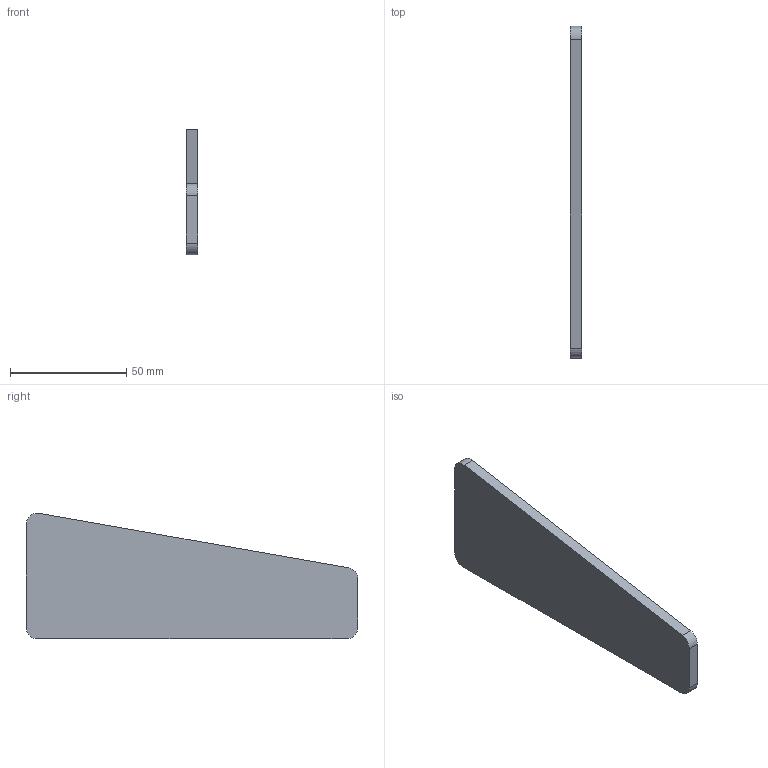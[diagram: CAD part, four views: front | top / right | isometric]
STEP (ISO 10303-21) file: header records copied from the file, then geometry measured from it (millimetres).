
FILE_DESCRIPTION(/* description */ (''),/* implementation_level */ '2;1');
FILE_NAME(/* name */ 'side_panel_v0.1.step',/* time_stamp */ '2026-08-26T16:36:14+01:00',/* author */ (''),/* organization */ (''),/* preprocessor_version */ 'ST-DEVELOPER v20.1',/* originating_system */ 'Autodesk Translation Framework v15.8.0.0',/* authorisation */ '');
FILE_SCHEMA (('AUTOMOTIVE_DESIGN { 1 0 10303 214 3 1 1 }'));
Length unit declared in the file: millimetre
Products named in the file (1): wood_right
Bounding box: 5 x 142.8 x 54.04 mm (x, y, z)
Volume: 30169.3 mm3; surface area: 13886.4 mm2
Topology: 1 solids, 1 shells, 12 faces, 30 edges, 20 vertices
Faces by surface type: plane 8, cylinder 4
Entity records: 402 total; most frequent: DIRECTION 64, CARTESIAN_POINT 63, ORIENTED_EDGE 60, EDGE_CURVE 30, LINE 22, VECTOR 22, AXIS2_PLACEMENT_3D 21, VERTEX_POINT 20
